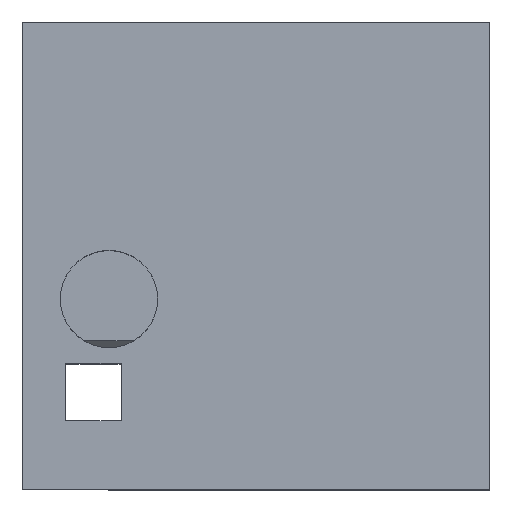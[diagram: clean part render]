
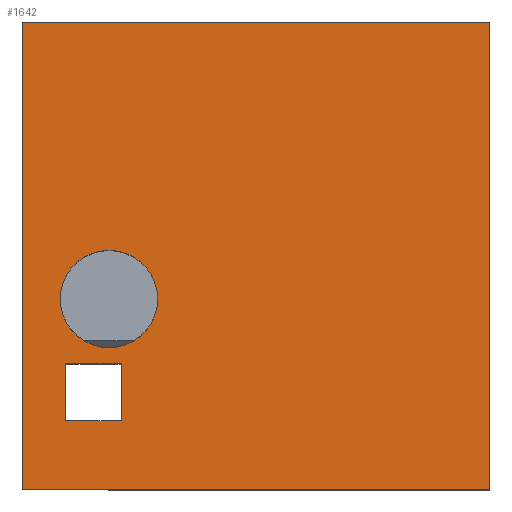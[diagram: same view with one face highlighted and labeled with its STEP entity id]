
A CAD part, top view. The second image highlights one B-rep face of the part: STEP entity #1642.
In plain terms, the highlighted planar face has unit normal (0, 0, 1).
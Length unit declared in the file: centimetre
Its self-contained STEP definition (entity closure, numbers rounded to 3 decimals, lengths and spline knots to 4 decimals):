
#45 = LINE ( 'NONE', #919, #819 ) ;
#57 = ORIENTED_EDGE ( 'NONE', *, *, #493, .T. ) ;
#92 = DIRECTION ( 'NONE',  ( 1., 0., 0. ) ) ;
#113 = DIRECTION ( 'NONE',  ( -1., 0., 0. ) ) ;
#129 = VERTEX_POINT ( 'NONE', #1735 ) ;
#131 = DIRECTION ( 'NONE',  ( 0., 1., 0. ) ) ;
#176 = AXIS2_PLACEMENT_3D ( 'NONE', #1694, #1842, #1113 ) ;
#230 = CIRCLE ( 'NONE', #527, 104.1587 ) ;
#264 = LINE ( 'NONE', #565, #319 ) ;
#269 = ORIENTED_EDGE ( 'NONE', *, *, #286, .F. ) ;
#286 = EDGE_CURVE ( 'NONE', #798, #354, #1306, .T. ) ;
#319 = VECTOR ( 'NONE', #1429, 100. ) ;
#354 = VERTEX_POINT ( 'NONE', #955 ) ;
#366 = CARTESIAN_POINT ( 'NONE',  ( 1000., 1000., 1000. ) ) ;
#368 = LINE ( 'NONE', #520, #795 ) ;
#400 = FACE_OUTER_BOUND ( 'NONE', #941, .T. ) ;
#493 = EDGE_CURVE ( 'NONE', #713, #1087, #1541, .T. ) ;
#515 = EDGE_CURVE ( 'NONE', #711, #1696, #264, .T. ) ;
#520 = CARTESIAN_POINT ( 'NONE',  ( 92.8423, 146.5173, 1000. ) ) ;
#527 = AXIS2_PLACEMENT_3D ( 'NONE', #1238, #817, #531 ) ;
#531 = DIRECTION ( 'NONE',  ( 1., 0., 0. ) ) ;
#536 = PLANE ( 'NONE',  #176 ) ;
#565 = CARTESIAN_POINT ( 'NONE',  ( 211.3176, 146.5173, 1000. ) ) ;
#567 = FACE_BOUND ( 'NONE', #1024, .T. ) ;
#574 = ORIENTED_EDGE ( 'NONE', *, *, #743, .T. ) ;
#595 = ORIENTED_EDGE ( 'NONE', *, *, #1475, .T. ) ;
#658 = CARTESIAN_POINT ( 'NONE',  ( 0., 1000., 1000. ) ) ;
#666 = LINE ( 'NONE', #1408, #1458 ) ;
#675 = DIRECTION ( 'NONE',  ( 0., 0., 1. ) ) ;
#700 = ORIENTED_EDGE ( 'NONE', *, *, #1196, .T. ) ;
#711 = VERTEX_POINT ( 'NONE', #758 ) ;
#713 = VERTEX_POINT ( 'NONE', #1478 ) ;
#738 = AXIS2_PLACEMENT_3D ( 'NONE', #1774, #675, #92 ) ;
#741 = VECTOR ( 'NONE', #1800, 100. ) ;
#743 = EDGE_CURVE ( 'NONE', #1103, #988, #45, .T. ) ;
#756 = CARTESIAN_POINT ( 'NONE',  ( 1000., 1000., 1000. ) ) ;
#758 = CARTESIAN_POINT ( 'NONE',  ( 211.3176, 269.2447, 1000. ) ) ;
#776 = CARTESIAN_POINT ( 'NONE',  ( 81.1615, 406.9247, 1000. ) ) ;
#795 = VECTOR ( 'NONE', #926, 100. ) ;
#798 = VERTEX_POINT ( 'NONE', #776 ) ;
#817 = DIRECTION ( 'NONE',  ( 0., 0., 1. ) ) ;
#819 = VECTOR ( 'NONE', #1213, 100. ) ;
#889 = DIRECTION ( 'NONE',  ( 1., 0., 0. ) ) ;
#892 = EDGE_CURVE ( 'NONE', #354, #798, #230, .T. ) ;
#919 = CARTESIAN_POINT ( 'NONE',  ( 0., 1000., 1000. ) ) ;
#926 = DIRECTION ( 'NONE',  ( -1., 0., 0. ) ) ;
#941 = EDGE_LOOP ( 'NONE', ( #574, #1143, #1097, #700 ) ) ;
#955 = CARTESIAN_POINT ( 'NONE',  ( 289.4788, 406.9247, 1000. ) ) ;
#976 = CARTESIAN_POINT ( 'NONE',  ( 211.3176, 146.5173, 1000. ) ) ;
#988 = VERTEX_POINT ( 'NONE', #1201 ) ;
#1024 = EDGE_LOOP ( 'NONE', ( #57, #1632, #1401, #595 ) ) ;
#1060 = EDGE_CURVE ( 'NONE', #129, #1411, #1792, .T. ) ;
#1062 = ORIENTED_EDGE ( 'NONE', *, *, #892, .F. ) ;
#1074 = EDGE_CURVE ( 'NONE', #1087, #711, #666, .T. ) ;
#1087 = VERTEX_POINT ( 'NONE', #1227 ) ;
#1097 = ORIENTED_EDGE ( 'NONE', *, *, #1060, .T. ) ;
#1103 = VERTEX_POINT ( 'NONE', #658 ) ;
#1113 = DIRECTION ( 'NONE',  ( 1., 0., 0. ) ) ;
#1143 = ORIENTED_EDGE ( 'NONE', *, *, #1829, .T. ) ;
#1196 = EDGE_CURVE ( 'NONE', #1411, #1103, #1811, .T. ) ;
#1201 = CARTESIAN_POINT ( 'NONE',  ( 0., 0., 1000. ) ) ;
#1213 = DIRECTION ( 'NONE',  ( 0., -1., 0. ) ) ;
#1227 = CARTESIAN_POINT ( 'NONE',  ( 92.8423, 269.2447, 1000. ) ) ;
#1238 = CARTESIAN_POINT ( 'NONE',  ( 185.3201, 406.9247, 1000. ) ) ;
#1306 = CIRCLE ( 'NONE', #738, 104.1587 ) ;
#1313 = LINE ( 'NONE', #1615, #1338 ) ;
#1338 = VECTOR ( 'NONE', #889, 100. ) ;
#1398 = CARTESIAN_POINT ( 'NONE',  ( 0., 1000., 1000. ) ) ;
#1401 = ORIENTED_EDGE ( 'NONE', *, *, #515, .T. ) ;
#1408 = CARTESIAN_POINT ( 'NONE',  ( 92.8423, 269.2447, 1000. ) ) ;
#1411 = VERTEX_POINT ( 'NONE', #756 ) ;
#1418 = CARTESIAN_POINT ( 'NONE',  ( 92.8423, 146.5173, 1000. ) ) ;
#1429 = DIRECTION ( 'NONE',  ( 0., -1., 0. ) ) ;
#1444 = EDGE_LOOP ( 'NONE', ( #1062, #269 ) ) ;
#1458 = VECTOR ( 'NONE', #1645, 100. ) ;
#1475 = EDGE_CURVE ( 'NONE', #1696, #713, #368, .T. ) ;
#1478 = CARTESIAN_POINT ( 'NONE',  ( 92.8423, 146.5173, 1000. ) ) ;
#1484 = VECTOR ( 'NONE', #113, 100. ) ;
#1541 = LINE ( 'NONE', #1418, #1682 ) ;
#1543 = FACE_BOUND ( 'NONE', #1444, .T. ) ;
#1615 = CARTESIAN_POINT ( 'NONE',  ( 0., 0., 1000. ) ) ;
#1632 = ORIENTED_EDGE ( 'NONE', *, *, #1074, .T. ) ;
#1642 = ADVANCED_FACE ( 'NONE', ( #1543, #567, #400 ), #536, .T. ) ;
#1645 = DIRECTION ( 'NONE',  ( 1., 0., 0. ) ) ;
#1682 = VECTOR ( 'NONE', #131, 100. ) ;
#1694 = CARTESIAN_POINT ( 'NONE',  ( 0., 0., 1000. ) ) ;
#1696 = VERTEX_POINT ( 'NONE', #976 ) ;
#1735 = CARTESIAN_POINT ( 'NONE',  ( 1000., 0., 1000. ) ) ;
#1774 = CARTESIAN_POINT ( 'NONE',  ( 185.3201, 406.9247, 1000. ) ) ;
#1792 = LINE ( 'NONE', #366, #741 ) ;
#1800 = DIRECTION ( 'NONE',  ( 0., 1., 0. ) ) ;
#1811 = LINE ( 'NONE', #1398, #1484 ) ;
#1829 = EDGE_CURVE ( 'NONE', #988, #129, #1313, .T. ) ;
#1842 = DIRECTION ( 'NONE',  ( 0., 0., 1. ) ) ;
